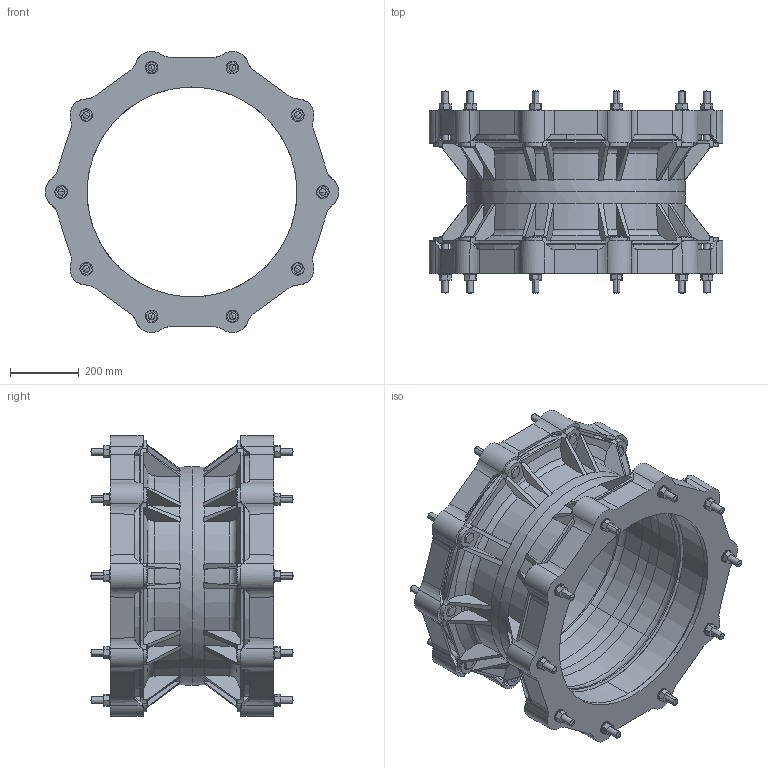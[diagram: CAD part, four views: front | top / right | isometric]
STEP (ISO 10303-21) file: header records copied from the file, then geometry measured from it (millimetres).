
FILE_DESCRIPTION((''),'2;1');
FILE_NAME('BIM_13198_18_ASM','2020-07-02T',('MReader'),(''),'CREO PARAMETRIC BY PTC INC, 2016130','CREO PARAMETRIC BY PTC INC, 2016130','');
FILE_SCHEMA(('CONFIG_CONTROL_DESIGN'));
Length unit declared in the file: millimetre
Products named in the file (4): BIM_13419_2; 558-608_GASKET_BIM; BIM_13417_3; BIM_13198_18_ASM
Assembly tree (5 placements, depth 2):
  BIM_13198_18_ASM
    BIM_13419_2
    558-608_GASKET_BIM  x2
    BIM_13417_3  x2
Bounding box: 856 x 589 x 818.66 mm (x, y, z)
Volume: 34113557.9 mm3; surface area: 5236700.3 mm2
Topology: 5 solids, 5 shells, 1676 faces, 4548 edges, 2984 vertices
Faces by surface type: plane 832, cylinder 472, cone 196, bspline 80, torus 56, sphere 40
Entity records: 44040 total; most frequent: CARTESIAN_POINT 12806, ORIENTED_EDGE 6880, DIRECTION 6006, EDGE_CURVE 3440, VERTEX_POINT 2276, AXIS2_PLACEMENT_3D 2236, VECTOR 1534, LINE 1534
